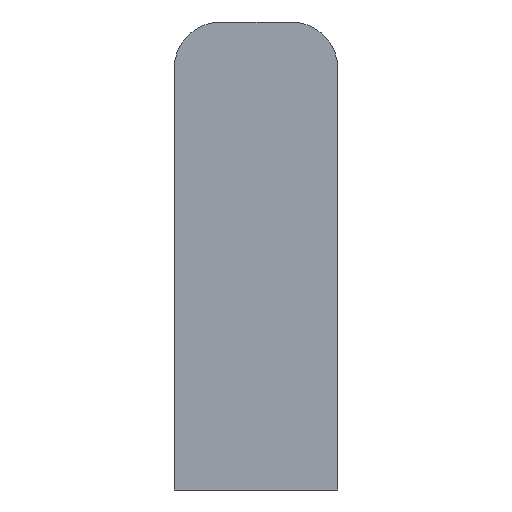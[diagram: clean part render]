
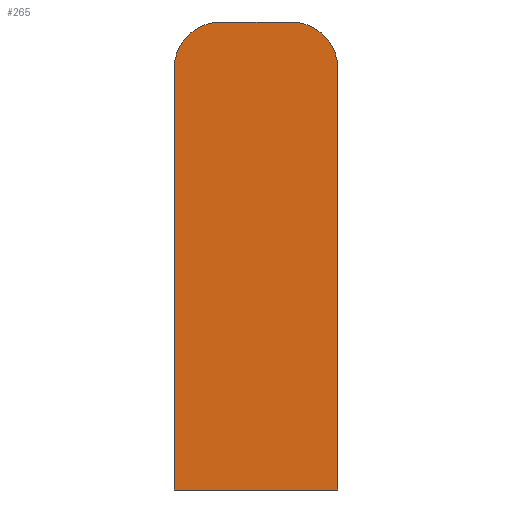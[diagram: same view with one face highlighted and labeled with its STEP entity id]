
A CAD part, front view. The second image highlights one B-rep face of the part: STEP entity #265.
In plain terms, the highlighted planar face has unit normal (0, -1, 0).
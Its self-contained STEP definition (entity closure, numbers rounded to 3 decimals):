
#19 = VERTEX_POINT ( 'NONE', #43 ) ;
#24 = VERTEX_POINT ( 'NONE', #48 ) ;
#25 = VERTEX_POINT ( 'NONE', #49 ) ;
#30 = VERTEX_POINT ( 'NONE', #54 ) ;
#32 = VERTEX_POINT ( 'NONE', #56 ) ;
#35 = VERTEX_POINT ( 'NONE', #59 ) ;
#43 = CARTESIAN_POINT ( 'NONE',  ( 5.25, 0., 10.5 ) ) ;
#48 = CARTESIAN_POINT ( 'NONE',  ( 2.25, 0., 13.5 ) ) ;
#49 = CARTESIAN_POINT ( 'NONE',  ( -2.25, 0., 13.5 ) ) ;
#54 = CARTESIAN_POINT ( 'NONE',  ( 5.25, 0., -16.5 ) ) ;
#56 = CARTESIAN_POINT ( 'NONE',  ( -5.25, 0., 10.5 ) ) ;
#59 = CARTESIAN_POINT ( 'NONE',  ( -5.25, 0., -16.5 ) ) ;
#70 = PLANE ( 'NONE',  #294 ) ;
#77 = CARTESIAN_POINT ( 'NONE',  ( 0., 0., -1.5 ) ) ;
#93 = DIRECTION ( 'NONE',  ( -1., 0., 0. ) ) ;
#94 = DIRECTION ( 'NONE',  ( 0., 1., 0. ) ) ;
#113 = CARTESIAN_POINT ( 'NONE',  ( 5.25, 0., -16.5 ) ) ;
#114 = DIRECTION ( 'NONE',  ( 0., 0., 1. ) ) ;
#137 = CARTESIAN_POINT ( 'NONE',  ( 2.25, 0., 10.5 ) ) ;
#142 = CARTESIAN_POINT ( 'NONE',  ( 5.25, 0., -16.5 ) ) ;
#143 = DIRECTION ( 'NONE',  ( 1., 0., 0. ) ) ;
#147 = DIRECTION ( 'NONE',  ( 0., -1., 0. ) ) ;
#148 = DIRECTION ( 'NONE',  ( -1., 0., 0. ) ) ;
#167 = CARTESIAN_POINT ( 'NONE',  ( -2.25, 0., 10.5 ) ) ;
#176 = CARTESIAN_POINT ( 'NONE',  ( -5.25, 0., -16.5 ) ) ;
#177 = DIRECTION ( 'NONE',  ( 0., 0., -1. ) ) ;
#178 = DIRECTION ( 'NONE',  ( 0., -1., 0. ) ) ;
#179 = DIRECTION ( 'NONE',  ( -1., 0., 0. ) ) ;
#207 = CARTESIAN_POINT ( 'NONE',  ( 2.25, 0., 13.5 ) ) ;
#208 = DIRECTION ( 'NONE',  ( -1., 0., 0. ) ) ;
#265 = ADVANCED_FACE ( 'NONE', ( #504 ), #70, .F. ) ;
#278 = EDGE_CURVE ( 'NONE', #30, #19, #478, .T. ) ;
#281 = AXIS2_PLACEMENT_3D ( 'NONE', #167, #178, #179 ) ;
#294 = AXIS2_PLACEMENT_3D ( 'NONE', #77, #94, #93 ) ;
#298 = EDGE_CURVE ( 'NONE', #35, #30, #527, .T. ) ;
#308 = EDGE_CURVE ( 'NONE', #19, #24, #533, .T. ) ;
#312 = AXIS2_PLACEMENT_3D ( 'NONE', #137, #147, #148 ) ;
#334 = EDGE_CURVE ( 'NONE', #32, #35, #393, .T. ) ;
#336 = EDGE_CURVE ( 'NONE', #25, #32, #562, .T. ) ;
#357 = EDGE_CURVE ( 'NONE', #24, #25, #572, .T. ) ;
#386 = VECTOR ( 'NONE', #114, 1000. ) ;
#392 = VECTOR ( 'NONE', #177, 1000. ) ;
#393 = LINE ( 'NONE', #176, #392 ) ;
#412 = EDGE_LOOP ( 'NONE', ( #540, #555, #553, #558, #557, #556 ) ) ;
#478 = LINE ( 'NONE', #113, #386 ) ;
#504 = FACE_OUTER_BOUND ( 'NONE', #412, .T. ) ;
#527 = LINE ( 'NONE', #142, #528 ) ;
#528 = VECTOR ( 'NONE', #143, 1000. ) ;
#533 = CIRCLE ( 'NONE', #312, 3. ) ;
#540 = ORIENTED_EDGE ( 'NONE', *, *, #278, .T. ) ;
#553 = ORIENTED_EDGE ( 'NONE', *, *, #357, .T. ) ;
#555 = ORIENTED_EDGE ( 'NONE', *, *, #308, .T. ) ;
#556 = ORIENTED_EDGE ( 'NONE', *, *, #298, .T. ) ;
#557 = ORIENTED_EDGE ( 'NONE', *, *, #334, .T. ) ;
#558 = ORIENTED_EDGE ( 'NONE', *, *, #336, .T. ) ;
#562 = CIRCLE ( 'NONE', #281, 3. ) ;
#572 = LINE ( 'NONE', #207, #573 ) ;
#573 = VECTOR ( 'NONE', #208, 1000. ) ;
